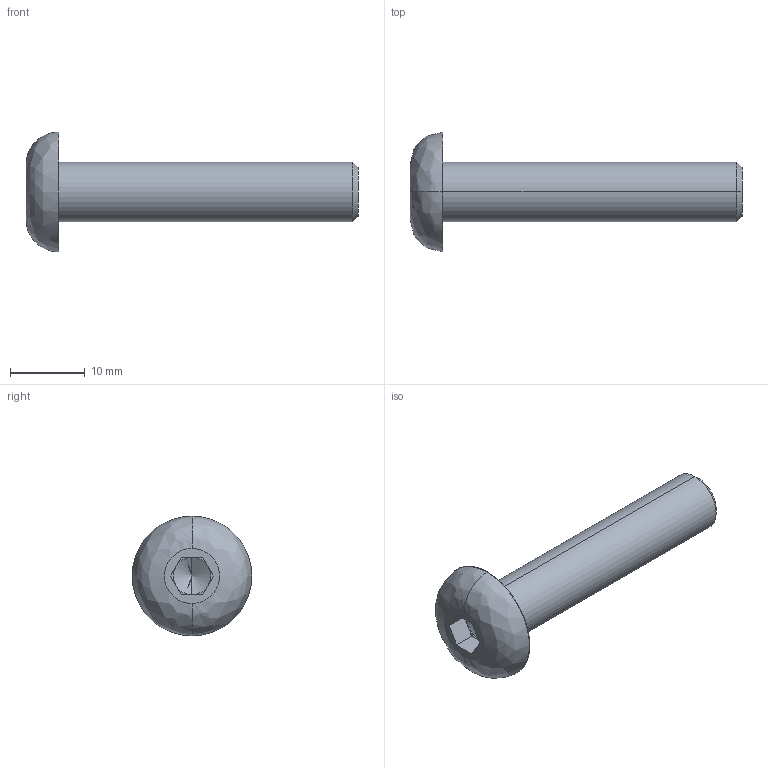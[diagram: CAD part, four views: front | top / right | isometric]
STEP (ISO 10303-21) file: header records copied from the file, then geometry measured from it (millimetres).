
FILE_DESCRIPTION (( 'STEP AP214' ), '1' );
FILE_NAME ('ISO7380_8x40.STEP', '2016-05-18T14:43:53', ( '' ), ( '' ), 'SwSTEP 2.0', 'SolidWorks 2014', '' );
FILE_SCHEMA (( 'AUTOMOTIVE_DESIGN' ));
Length unit declared in the file: millimetre
Products named in the file (1): ISO7380_8x40
Bounding box: 44.4 x 16 x 16 mm (x, y, z)
Volume: 2638.1 mm3; surface area: 1569.1 mm2
Topology: 1 solids, 1 shells, 27 faces, 59 edges, 34 vertices
Faces by surface type: plane 15, cylinder 6, cone 4, bspline 2
Entity records: 771 total; most frequent: CARTESIAN_POINT 158, DIRECTION 126, ORIENTED_EDGE 114, EDGE_CURVE 57, AXIS2_PLACEMENT_3D 46, VECTOR 34, VERTEX_POINT 34, LINE 34
